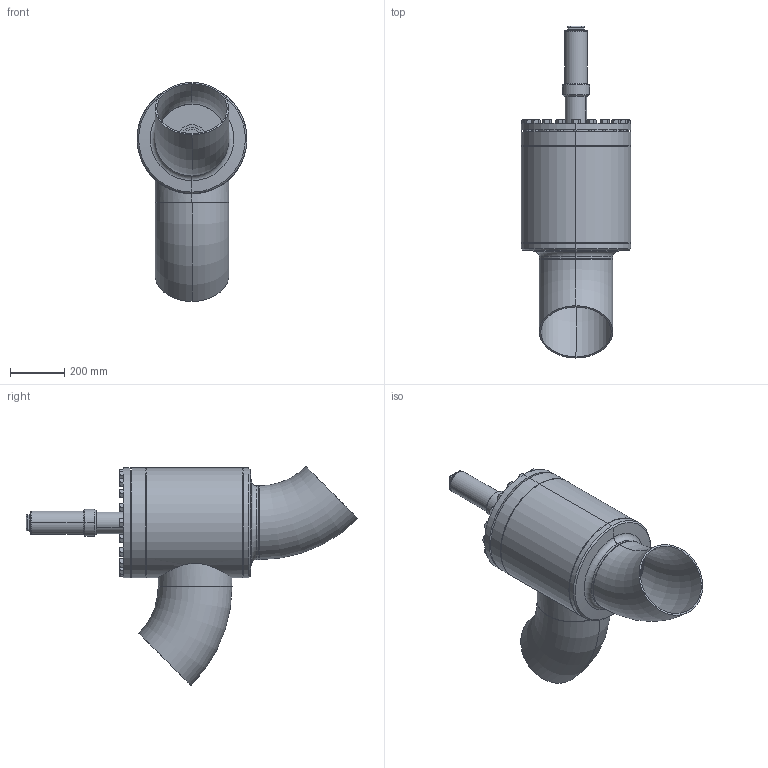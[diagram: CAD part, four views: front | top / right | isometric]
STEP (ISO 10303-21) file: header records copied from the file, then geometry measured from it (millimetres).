
FILE_DESCRIPTION (( 'STEP AP214' ), '1' );
FILE_NAME ('AVR26300C24-DN250_R1_PS25.STEP', '2006-04-28T08:23:14', ( 'Herr Grams' ), ( 'AWP GmbH' ), 'SwSTEP 2.0', 'SolidWorks 2002296', '' );
FILE_SCHEMA (( 'AUTOMOTIVE_DESIGN' ));
Length unit declared in the file: millimetre
Products named in the file (18): AVR26300C24-DN250_R1_PS25; Kappe16402_DN200-350_Standard; Gehäuse-kpl26300-DN250_R1_Standard; Gehäuse26300-DN250_Standard; Kopfstück26300-DN250_Standard; Rohrstutzen-A26300-DN250_R1_Standard; Boden26300-DN250_Standard; Rohrbogen 45°_Rohrbogen-DN250-45°; bead-DN250-4_Standard; bead-DN250-3_Standard; bead-DN250-2_Standard; bead-DN250-1_Standard; AVR26300B24_Deck+Schr-DN250_Standard; Deckel-kpl26300-DN250_Standard; Buchse f Deckel26300-DN250_Standard; Scheibe f Deckel26300-DN250_Standard; bead-deck263-250_Standard; Sechskantschraube-DIN933_M20x 60
Assembly tree (37 placements, depth 4):
  AVR26300C24-DN250_R1_PS25
    Gehäuse-kpl26300-DN250_R1_Standard
      bead-DN250-1_Standard
      Rohrbogen 45°_Rohrbogen-DN250-45°  x2
      bead-DN250-3_Standard
      Kopfstück26300-DN250_Standard
      bead-DN250-4_Standard
      Gehäuse26300-DN250_Standard
      bead-DN250-2_Standard
      Rohrstutzen-A26300-DN250_R1_Standard
      Boden26300-DN250_Standard
    Kappe16402_DN200-350_Standard
    AVR26300B24_Deck+Schr-DN250_Standard
      Sechskantschraube-DIN933_M20x 60  x20
      Deckel-kpl26300-DN250_Standard
        Scheibe f Deckel26300-DN250_Standard
        bead-deck263-250_Standard
        Buchse f Deckel26300-DN250_Standard
Bounding box: 406.71 x 1228.93 x 810.04 mm (x, y, z)
Volume: 25637137.5 mm3; surface area: 3493174.5 mm2
Topology: 34 solids, 34 shells, 728 faces, 1554 edges, 926 vertices
Faces by surface type: cone 300, plane 231, cylinder 149, bspline 28, torus 20
Entity records: 19783 total; most frequent: CARTESIAN_POINT 13244, DIRECTION 1258, ORIENTED_EDGE 1108, EDGE_CURVE 554, AXIS2_PLACEMENT_3D 552, VERTEX_POINT 348, EDGE_LOOP 324, CIRCLE 290
